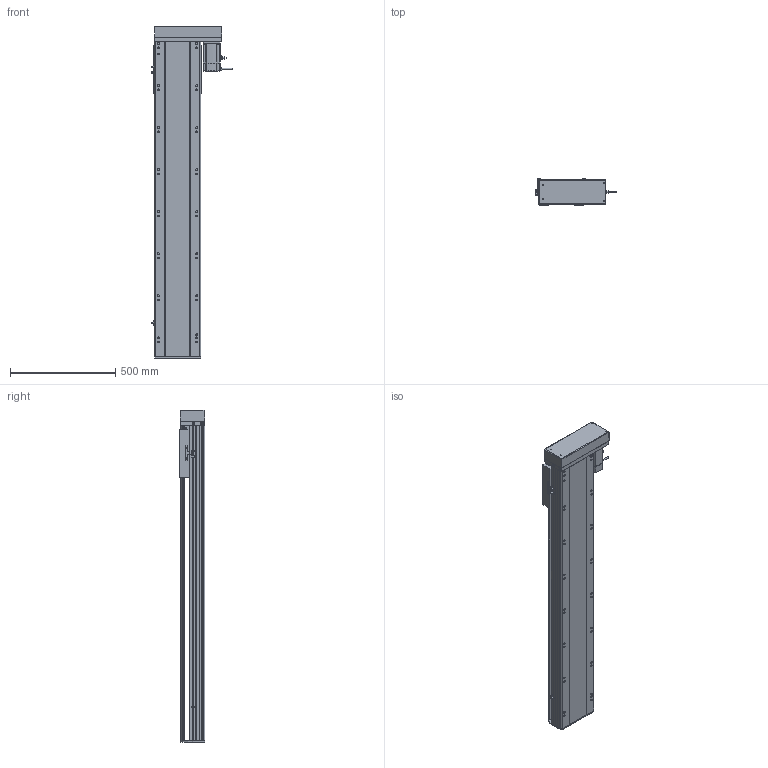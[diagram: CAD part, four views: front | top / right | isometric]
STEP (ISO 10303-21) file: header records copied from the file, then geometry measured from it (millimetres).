
FILE_DESCRIPTION (( 'STEP AP214' ), '1' );
FILE_NAME ('RTH22-XX-1200-L-M75-C4.STEP', '2025-10-24T11:01:48', ( 'Microsoft' ), ( 'Microsoft' ), 'SwSTEP 2.0', 'SolidWorks 2018', '' );
FILE_SCHEMA (( 'AUTOMOTIVE_DESIGN' ));
Length unit declared in the file: millimetre
Products named in the file (10): N_RTH22-L-018裔赽^RTH22-XX-XX-L-M75-C4; N_RTH22-GY-001耜裔^RTH22-XX-XX-L-M75-C4; N_750W萇儂^RTH22-XX-XX-L-M75-C4; N_RTH22-L-004-SFS25賑釱^RTH22-XX-XX-L-M75-C4; N_OMRON EE-SX672 传感器^RTH22-XX-XX-L-M75-C4; N_RTH22-L-008-P75萇儂啣^RTH22-XX-XX-L-M75-C4; RTH22-XX-1200-L-M75-C4; N_RTH22-L-007奻裔^RTH22-XX-XX-L-M75-C4; N_RTH22-L-011菁釱^RTH22-XX-XX-L-M75-C4; N_RTH22-GY-013外置感应片^RTH22-XX-XX-L-M75-C4
Assembly tree (11 placements, depth 2):
  RTH22-XX-1200-L-M75-C4
    N_RTH22-L-011菁釱^RTH22-XX-XX-L-M75-C4
    N_RTH22-GY-001耜裔^RTH22-XX-XX-L-M75-C4
    N_750W萇儂^RTH22-XX-XX-L-M75-C4
    N_RTH22-L-008-P75萇儂啣^RTH22-XX-XX-L-M75-C4
    N_RTH22-L-007奻裔^RTH22-XX-XX-L-M75-C4
    N_RTH22-L-018裔赽^RTH22-XX-XX-L-M75-C4
    N_OMRON EE-SX672 传感器^RTH22-XX-XX-L-M75-C4  x3
    N_RTH22-GY-013外置感应片^RTH22-XX-XX-L-M75-C4
    N_RTH22-L-004-SFS25賑釱^RTH22-XX-XX-L-M75-C4
Bounding box: 384.7 x 122 x 1579.7 mm (x, y, z)
Volume: 21238626 mm3; surface area: 2344799 mm2
Topology: 11 solids, 11 shells, 1624 faces, 4429 edges, 2851 vertices
Faces by surface type: plane 797, cylinder 482, bspline 279, cone 66
Entity records: 40993 total; most frequent: CARTESIAN_POINT 12410, ORIENTED_EDGE 5818, DIRECTION 5519, EDGE_CURVE 2909, VERTEX_POINT 1887, AXIS2_PLACEMENT_3D 1868, VECTOR 1783, LINE 1783
